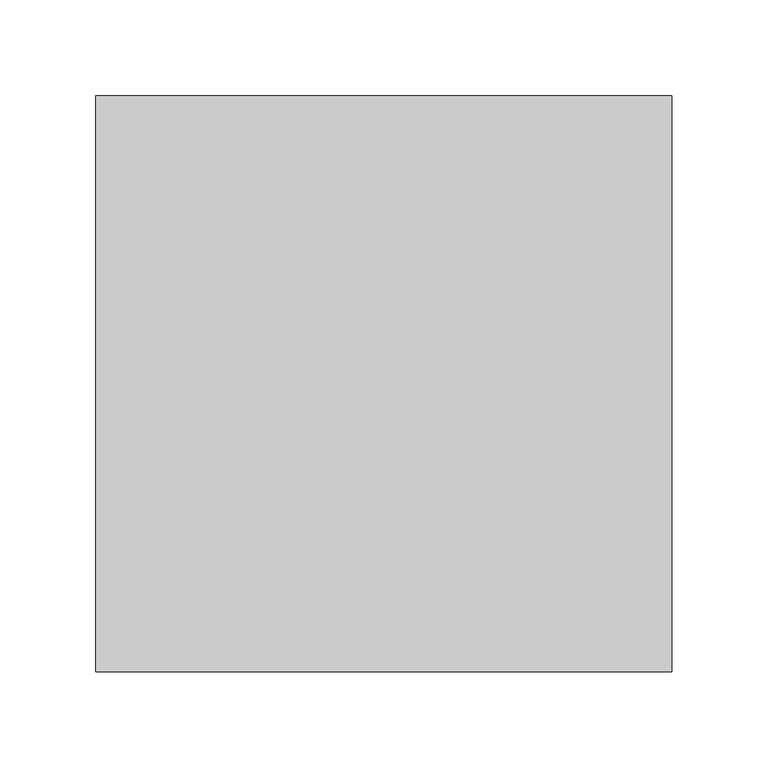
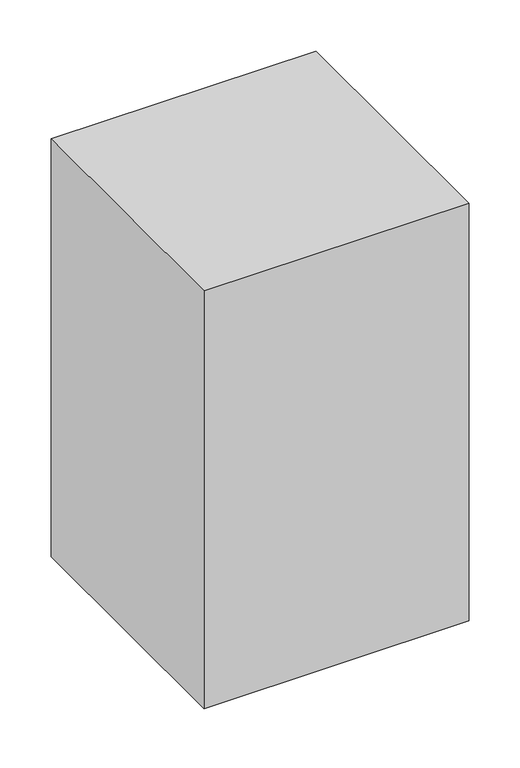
"""IFC4 building model written with IfcOpenShell, lengths in millimetres: furniture geometry, Audo Copenhagen - Plinth - Tall : Audo Copenhagen - Plinth - Tall."""

from ifc_helpers import new_model, si_unit, frame, origin, place, context, project, spatial, polyline, circle_curve, outline, extrude, source, transform, mapped, element, save
from ifc_brep_helpers import plane_surface, revolved_surface, advanced_brep


def furniture_1b8913a1(model_context):
    return source(origin(), model_context, "Body", "SolidModel", [
        advanced_brep(
        [(-136.9781765, 129.9615145, 0.0), (-122.9781765, 129.9615145, 0.0), (-139.9781765, 129.9615145, 9.9), (-119.9781765, 129.9615145, 9.9)],
        [
            (0, 1, circle_curve(frame((-129.9781765, 129.9615145, 0.0), z_axis=(0.0, 0.0, -1.0), x_axis=(-1.0, 0.0, 0.0)), 7.0)),
            (1, 0, circle_curve(frame((-129.9781765, 129.9615145, 0.0), z_axis=(0.0, 0.0, -1.0), x_axis=(1.0, 0.0, 0.0)), 7.0)),
            (2, 3, circle_curve(frame((-129.9781765, 129.9615145, 9.9), z_axis=(0.0, 0.0, 1.0), x_axis=(1.0, 0.0, 0.0)), 10.0)),
            (3, 2, circle_curve(frame((-129.9781765, 129.9615145, 9.9), z_axis=(0.0, 0.0, 1.0), x_axis=(-1.0, 0.0, 0.0)), 10.0)),
            (2, 0),
            (1, 3),
        ],
        [
            plane_surface(frame((-129.9781765, 129.9615145, 0.0), z_axis=(0.0, 0.0, -1.0), x_axis=(0.0, -1.0, 0.0))),
            plane_surface(frame((-129.9781765, 129.9615145, 9.9), z_axis=(0.0, 0.0, 1.0), x_axis=(0.0, -1.0, 0.0))),
            revolved_surface(polyline([(-122.9781765, 129.9615145, 0.0), (-119.9781765, 129.9615145, 9.899999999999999)]), (-129.9781765, 129.9615145, -23.1), (0.0, 0.0, 1.0)),
            revolved_surface(polyline([(-136.9781765, 129.9615145, 0.0), (-139.9781765, 129.9615145, 9.899999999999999)]), (-129.9781765, 129.9615145, -23.1), (0.0, 0.0, 1.0)),
        ],
        [
            (0, [[1, 2]]),
            (1, [[3, 4]]),
            (2, [[-3, 5, -2, 6]]),
            (3, [[-4, -6, -1, -5]]),
        ],
    ),
        advanced_brep(
        [(136.9781765, 129.9615145, 0.0), (122.9781765, 129.9615145, 0.0), (139.9781765, 129.9615145, 9.9), (119.9781765, 129.9615145, 9.9)],
        [
            (0, 1, circle_curve(frame((129.9781765, 129.9615145, 0.0), z_axis=(0.0, 0.0, -1.0), x_axis=(1.0, 0.0, 0.0)), 7.0)),
            (1, 0, circle_curve(frame((129.9781765, 129.9615145, 0.0), z_axis=(0.0, 0.0, -1.0), x_axis=(-1.0, 0.0, 0.0)), 7.0)),
            (2, 3, circle_curve(frame((129.9781765, 129.9615145, 9.9), z_axis=(0.0, 0.0, 1.0), x_axis=(-1.0, 0.0, 0.0)), 10.0)),
            (3, 2, circle_curve(frame((129.9781765, 129.9615145, 9.9), z_axis=(0.0, 0.0, 1.0), x_axis=(1.0, 0.0, 0.0)), 10.0)),
            (3, 1),
            (0, 2),
        ],
        [
            plane_surface(frame((129.9781765, 129.9615145, 0.0), z_axis=(0.0, 0.0, -1.0), x_axis=(0.0, 1.0, 0.0))),
            plane_surface(frame((129.9781765, 129.9615145, 9.9), z_axis=(0.0, 0.0, 1.0), x_axis=(0.0, 1.0, 0.0))),
            revolved_surface(polyline([(136.9781765, 129.9615145, 0.0), (139.9781765, 129.9615145, 9.899999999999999)]), (129.9781765, 129.9615145, -23.1), (0.0, 0.0, 1.0)),
            revolved_surface(polyline([(122.9781765, 129.9615145, 0.0), (119.9781765, 129.9615145, 9.899999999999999)]), (129.9781765, 129.9615145, -23.1), (0.0, 0.0, 1.0)),
        ],
        [
            (0, [[1, 2]]),
            (1, [[3, 4]]),
            (2, [[-4, 5, -1, 6]]),
            (3, [[-3, -6, -2, -5]]),
        ],
    ),
        advanced_brep(
        [(136.9781765, -129.9615145, 0.0), (122.9781765, -129.9615145, 0.0), (139.9781765, -129.9615145, 9.9), (119.9781765, -129.9615145, 9.9)],
        [
            (0, 1, circle_curve(frame((129.9781765, -129.9615145, 0.0), z_axis=(0.0, 0.0, -1.0), x_axis=(1.0, 0.0, 0.0)), 7.0)),
            (1, 0, circle_curve(frame((129.9781765, -129.9615145, 0.0), z_axis=(0.0, 0.0, -1.0), x_axis=(-1.0, 0.0, 0.0)), 7.0)),
            (2, 3, circle_curve(frame((129.9781765, -129.9615145, 9.9), z_axis=(0.0, 0.0, 1.0), x_axis=(-1.0, 0.0, 0.0)), 10.0)),
            (3, 2, circle_curve(frame((129.9781765, -129.9615145, 9.9), z_axis=(0.0, 0.0, 1.0), x_axis=(1.0, 0.0, 0.0)), 10.0)),
            (2, 0),
            (1, 3),
        ],
        [
            plane_surface(frame((129.9781765, -129.9615145, 0.0), z_axis=(0.0, 0.0, -1.0), x_axis=(0.0, 1.0, 0.0))),
            plane_surface(frame((129.9781765, -129.9615145, 9.9), z_axis=(0.0, 0.0, 1.0), x_axis=(0.0, 1.0, 0.0))),
            revolved_surface(polyline([(122.9781765, -129.9615145, 0.0), (119.9781765, -129.9615145, 9.899999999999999)]), (129.9781765, -129.9615145, -23.1), (0.0, 0.0, 1.0)),
            revolved_surface(polyline([(136.9781765, -129.9615145, 0.0), (139.9781765, -129.9615145, 9.899999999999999)]), (129.9781765, -129.9615145, -23.1), (0.0, 0.0, 1.0)),
        ],
        [
            (0, [[1, 2]]),
            (1, [[3, 4]]),
            (2, [[-3, 5, -2, 6]]),
            (3, [[-4, -6, -1, -5]]),
        ],
    ),
        advanced_brep(
        [(-136.9781765, -129.9615145, 0.0), (-122.9781765, -129.9615145, 0.0), (-139.9781765, -129.9615145, 9.9), (-119.9781765, -129.9615145, 9.9)],
        [
            (0, 1, circle_curve(frame((-129.9781765, -129.9615145, 0.0), z_axis=(0.0, 0.0, -1.0), x_axis=(-1.0, 0.0, 0.0)), 7.0)),
            (1, 0, circle_curve(frame((-129.9781765, -129.9615145, 0.0), z_axis=(0.0, 0.0, -1.0), x_axis=(1.0, 0.0, 0.0)), 7.0)),
            (2, 3, circle_curve(frame((-129.9781765, -129.9615145, 9.9), z_axis=(0.0, 0.0, 1.0), x_axis=(1.0, 0.0, 0.0)), 10.0)),
            (3, 2, circle_curve(frame((-129.9781765, -129.9615145, 9.9), z_axis=(0.0, 0.0, 1.0), x_axis=(-1.0, 0.0, 0.0)), 10.0)),
            (3, 1),
            (0, 2),
        ],
        [
            plane_surface(frame((-129.9781765, -129.9615145, 0.0), z_axis=(0.0, 0.0, -1.0), x_axis=(0.0, -1.0, 0.0))),
            plane_surface(frame((-129.9781765, -129.9615145, 9.9), z_axis=(0.0, 0.0, 1.0), x_axis=(0.0, -1.0, 0.0))),
            revolved_surface(polyline([(-136.9781765, -129.9615145, 0.0), (-139.9781765, -129.9615145, 9.899999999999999)]), (-129.9781765, -129.9615145, -23.1), (0.0, 0.0, 1.0)),
            revolved_surface(polyline([(-122.9781765, -129.9615145, 0.0), (-119.9781765, -129.9615145, 9.899999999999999)]), (-129.9781765, -129.9615145, -23.1), (0.0, 0.0, 1.0)),
        ],
        [
            (0, [[1, 2]]),
            (1, [[3, 4]]),
            (2, [[-4, 5, -1, 6]]),
            (3, [[-3, -6, -2, -5]]),
        ],
    ),
        extrude(outline(polyline([(-150.0, -150.0), (-150.0, 150.0), (150.0, 150.0), (150.0, -150.0), (-150.0, -150.0)])), frame((0.0, 0.0, 9.9), z_axis=(0.0, 0.0, 1.0), x_axis=(1.0, 0.0, 0.0)), (0.0, 0.0, 1.0), 500.0),
    ])


if __name__ == "__main__":
    model = new_model("IFC4")
    model_context = context("Model", 3, world=origin())
    ifc_project = project(units=[si_unit("LENGTHUNIT", "METRE", prefix="MILLI")], contexts=[model_context])
    site = spatial("IfcSite", under=ifc_project)
    building = spatial("IfcBuilding", under=site)
    placement = place(None, origin())
    furniture_shape = furniture_1b8913a1(model_context)
    element("IfcFurniture", 1, ObjectType="Audo Copenhagen - Plinth - Tall : Audo Copenhagen - Plinth - Tall", at=placement, inside=building, context=model_context, shape_type="MappedRepresentation", body=[
        mapped(furniture_shape, transform((0.0, 0.0, 0.0), x_axis=(1.0, 0.0, 0.0), y_axis=(0.0, 1.0, 0.0), z_axis=(0.0, 0.0, 1.0))),
    ])
    save(model, "model.ifc")
